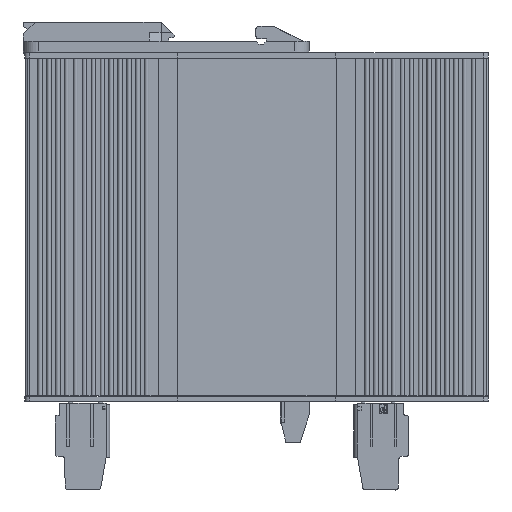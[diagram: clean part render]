
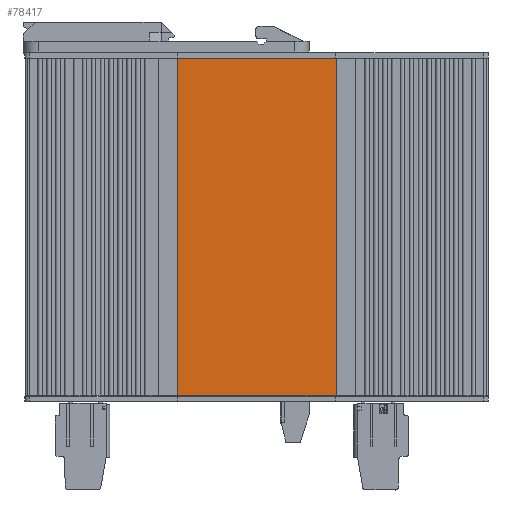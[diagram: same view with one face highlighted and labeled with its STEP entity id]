
A CAD part, left-side view. The second image highlights one B-rep face of the part: STEP entity #78417.
In plain terms, the highlighted planar face has unit normal (-1, 0, 0) as drawn and (0, -1, 0) by its records, which use the part's own axes.
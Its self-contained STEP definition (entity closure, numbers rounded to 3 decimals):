
#6288=FACE_OUTER_BOUND('',#8618,.T.);
#8618=EDGE_LOOP('',(#57590,#57591,#57592,#57593));
#11764=LINE('',#107474,#22200);
#11765=LINE('',#107477,#22201);
#11766=LINE('',#107479,#22202);
#11767=LINE('',#107480,#22203);
#22200=VECTOR('',#86523,10.);
#22201=VECTOR('',#86526,10.);
#22202=VECTOR('',#86527,10.);
#22203=VECTOR('',#86528,10.);
#32579=VERTEX_POINT('',#107470);
#32580=VERTEX_POINT('',#107472);
#32581=VERTEX_POINT('',#107476);
#32582=VERTEX_POINT('',#107478);
#44125=EDGE_CURVE('',#32579,#32580,#11764,.T.);
#44126=EDGE_CURVE('',#32581,#32579,#11765,.T.);
#44127=EDGE_CURVE('',#32582,#32580,#11766,.T.);
#44128=EDGE_CURVE('',#32581,#32582,#11767,.T.);
#57590=ORIENTED_EDGE('',*,*,#44126,.T.);
#57591=ORIENTED_EDGE('',*,*,#44125,.T.);
#57592=ORIENTED_EDGE('',*,*,#44127,.F.);
#57593=ORIENTED_EDGE('',*,*,#44128,.F.);
#76589=PLANE('',#80896);
#78417=ADVANCED_FACE('',(#6288),#76589,.T.);
#80896=AXIS2_PLACEMENT_3D('',#107475,#86524,#86525);
#86523=DIRECTION('',(0.,0.,1.));
#86524=DIRECTION('center_axis',(0.,-1.,0.));
#86525=DIRECTION('ref_axis',(1.,0.,0.));
#86526=DIRECTION('',(1.,0.,0.));
#86527=DIRECTION('',(1.,0.,0.));
#86528=DIRECTION('',(0.,0.,1.));
#107470=CARTESIAN_POINT('',(146.17,57.75,0.));
#107472=CARTESIAN_POINT('',(146.17,57.75,114.));
#107474=CARTESIAN_POINT('',(146.17,57.75,0.));
#107475=CARTESIAN_POINT('Origin',(92.67,57.75,0.));
#107476=CARTESIAN_POINT('',(92.67,57.75,0.));
#107477=CARTESIAN_POINT('',(88.32,57.75,0.));
#107478=CARTESIAN_POINT('',(92.67,57.75,114.));
#107479=CARTESIAN_POINT('',(88.32,57.75,114.));
#107480=CARTESIAN_POINT('',(92.67,57.75,0.));
